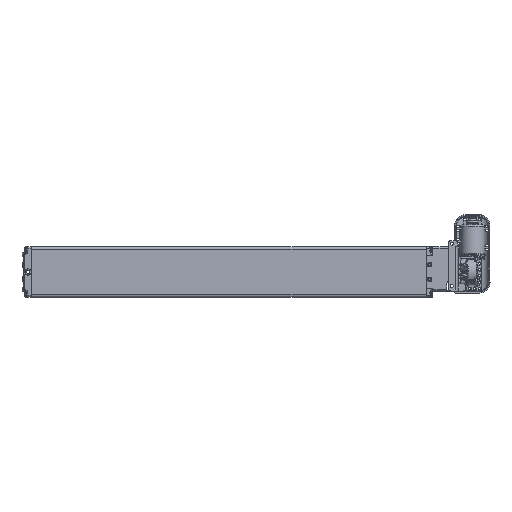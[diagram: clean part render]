
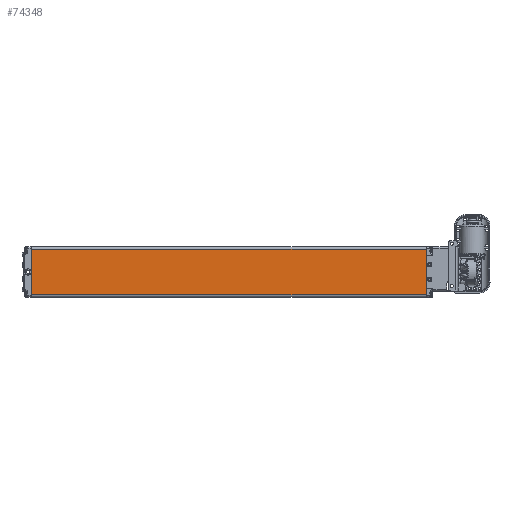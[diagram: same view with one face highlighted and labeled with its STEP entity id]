
A CAD part, top view. The second image highlights one B-rep face of the part: STEP entity #74348.
In plain terms, the highlighted planar face has unit normal (0, 0, 1).
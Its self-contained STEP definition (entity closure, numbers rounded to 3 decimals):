
#7078=LINE('',#125537,#10098);
#7079=LINE('',#125540,#10099);
#7080=LINE('',#125542,#10100);
#7081=LINE('',#125544,#10101);
#10098=VECTOR('',#86744,1000.);
#10099=VECTOR('',#86745,1000.);
#10100=VECTOR('',#86746,1000.);
#10101=VECTOR('',#86747,1000.);
#17794=ORIENTED_EDGE('',*,*,#34835,.T.);
#17795=ORIENTED_EDGE('',*,*,#34836,.T.);
#17796=ORIENTED_EDGE('',*,*,#34837,.T.);
#17797=ORIENTED_EDGE('',*,*,#34838,.T.);
#34835=EDGE_CURVE('',#43581,#43582,#7078,.F.);
#34836=EDGE_CURVE('',#43582,#43583,#7079,.T.);
#34837=EDGE_CURVE('',#43583,#43584,#7080,.T.);
#34838=EDGE_CURVE('',#43584,#43581,#7081,.F.);
#43581=VERTEX_POINT('',#125538);
#43582=VERTEX_POINT('',#125539);
#43583=VERTEX_POINT('',#125541);
#43584=VERTEX_POINT('',#125543);
#51980=EDGE_LOOP('',(#17794,#17795,#17796,#17797));
#56563=FACE_BOUND('',#51980,.T.);
#60304=PLANE('',#78830);
#74348=ADVANCED_FACE('',(#56563),#60304,.T.);
#78830=AXIS2_PLACEMENT_3D('',#125536,#86742,#86743);
#86742=DIRECTION('',(0.,0.,1.));
#86743=DIRECTION('',(1.,0.,0.));
#86744=DIRECTION('',(0.,-1.,0.));
#86745=DIRECTION('',(-1.,0.,0.));
#86746=DIRECTION('',(0.,-1.,0.));
#86747=DIRECTION('',(-1.,0.,0.));
#125536=CARTESIAN_POINT('',(60.,939.5,30.));
#125537=CARTESIAN_POINT('',(54.,939.5,30.));
#125538=CARTESIAN_POINT('',(54.,0.5,30.));
#125539=CARTESIAN_POINT('',(54.,939.,30.));
#125540=CARTESIAN_POINT('',(60.,939.,30.));
#125541=CARTESIAN_POINT('',(-54.,939.,30.));
#125542=CARTESIAN_POINT('',(-54.,939.5,30.));
#125543=CARTESIAN_POINT('',(-54.,0.5,30.));
#125544=CARTESIAN_POINT('',(54.,0.5,30.));
